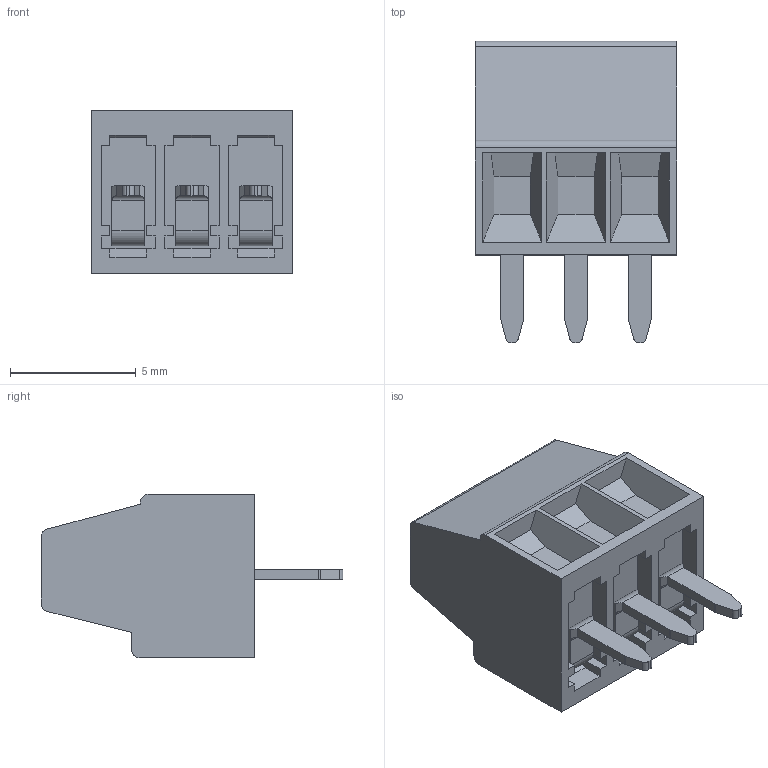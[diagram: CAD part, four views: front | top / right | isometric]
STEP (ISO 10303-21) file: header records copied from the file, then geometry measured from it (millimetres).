
FILE_DESCRIPTION((''),'2;1');
FILE_NAME('3PIN_SW0001','2019-05-15T',('zhenbing.lai'),(''),'CREO PARAMETRIC BY PTC INC, 2016260','CREO PARAMETRIC BY PTC INC, 2016260','');
FILE_SCHEMA(('CONFIG_CONTROL_DESIGN'));
Length unit declared in the file: millimetre
Products named in the file (1): 3PIN_SW0001
Bounding box: 8.02 x 12 x 6.5 mm (x, y, z)
Volume: 309.1 mm3; surface area: 531.3 mm2
Topology: 1 solids, 1 shells, 299 faces, 777 edges, 495 vertices
Faces by surface type: plane 211, cylinder 58, cone 12, torus 12, bspline 6
Entity records: 10037 total; most frequent: CARTESIAN_POINT 2724, ORIENTED_EDGE 1554, DIRECTION 1440, EDGE_CURVE 777, VECTOR 556, LINE 556, VERTEX_POINT 495, AXIS2_PLACEMENT_3D 442
